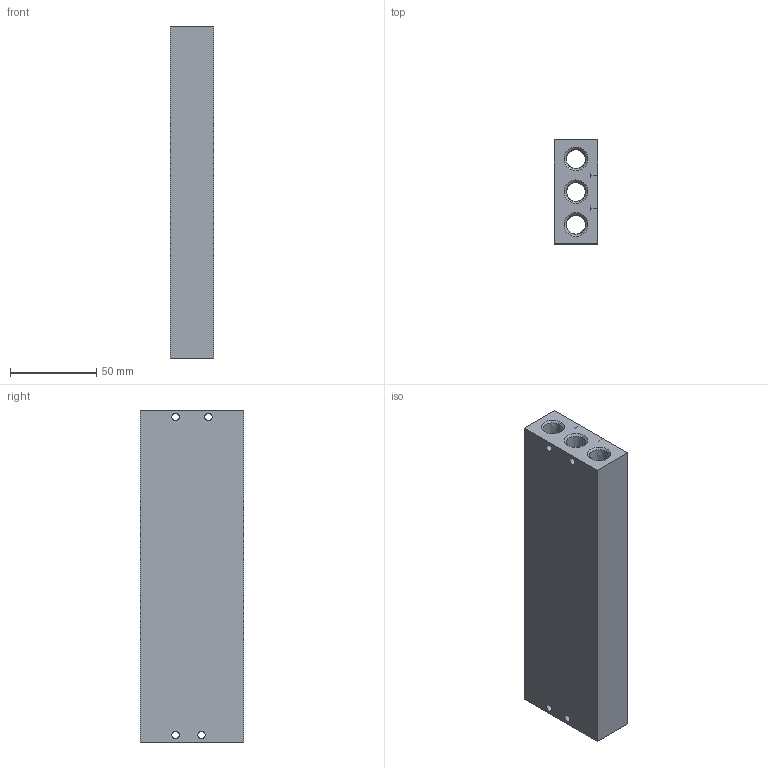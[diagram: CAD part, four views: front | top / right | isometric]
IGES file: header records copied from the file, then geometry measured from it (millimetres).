
Global section: file name: No Iges File Name specified; native system: AutoDesk Inventor R11.0; preprocessor: AutoDesk Inventor Iges Exporter R11.0; author: No Author specified; organization: No Organization specified; date: 20061201.115641; units: millimetre
Bounding box: 25 x 60 x 192 mm (x, y, z)
Volume: 210912.2 mm3; surface area: 61948.1 mm2
Topology: 1 solids, 1 shells, 306 faces, 811 edges, 483 vertices
Faces by surface type: bspline 294, revolution 6, plane 6
